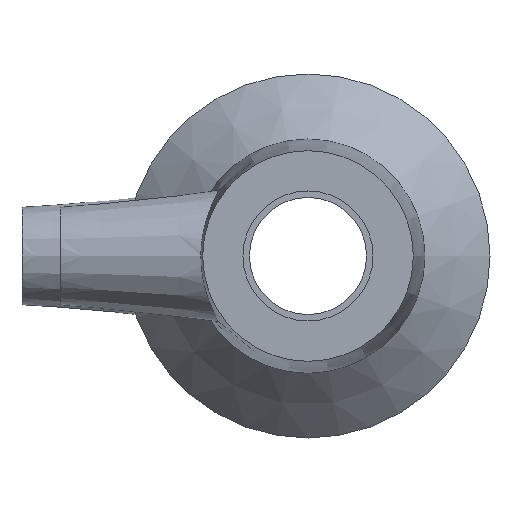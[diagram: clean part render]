
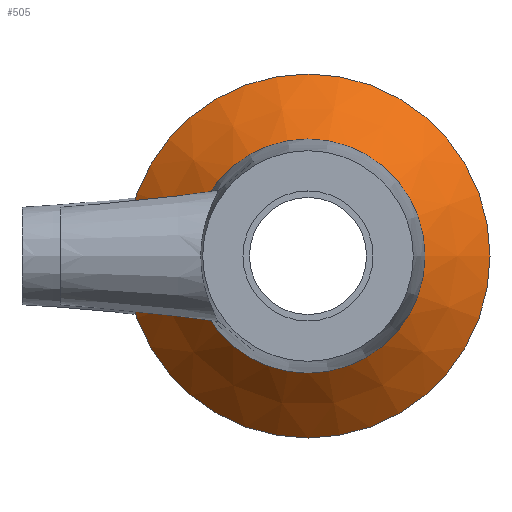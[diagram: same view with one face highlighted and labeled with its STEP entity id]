
A CAD part, left-side view. The second image highlights one B-rep face of the part: STEP entity #505.
In plain terms, the highlighted conical face has half-angle 45 degrees and reference radius 23 mm.
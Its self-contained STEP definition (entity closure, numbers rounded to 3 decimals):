
#21=CONICAL_SURFACE('',#571,23.,0.785);
#46=LINE('',#940,#65);
#65=VECTOR('',#694,23.);
#101=FACE_OUTER_BOUND('',#136,.T.);
#136=EDGE_LOOP('',(#380,#381,#382,#383,#384,#385));
#173=CIRCLE('',#567,18.);
#174=CIRCLE('',#568,18.);
#177=CIRCLE('',#572,28.);
#178=CIRCLE('',#573,28.);
#226=VERTEX_POINT('',#926);
#227=VERTEX_POINT('',#927);
#230=VERTEX_POINT('',#936);
#231=VERTEX_POINT('',#937);
#285=EDGE_CURVE('',#226,#227,#173,.T.);
#286=EDGE_CURVE('',#227,#226,#174,.T.);
#290=EDGE_CURVE('',#230,#231,#177,.T.);
#291=EDGE_CURVE('',#231,#230,#178,.T.);
#292=EDGE_CURVE('',#231,#227,#46,.T.);
#380=ORIENTED_EDGE('',*,*,#290,.F.);
#381=ORIENTED_EDGE('',*,*,#291,.F.);
#382=ORIENTED_EDGE('',*,*,#292,.T.);
#383=ORIENTED_EDGE('',*,*,#286,.T.);
#384=ORIENTED_EDGE('',*,*,#285,.T.);
#385=ORIENTED_EDGE('',*,*,#292,.F.);
#505=ADVANCED_FACE('',(#101),#21,.T.);
#567=AXIS2_PLACEMENT_3D('',#928,#679,#680);
#568=AXIS2_PLACEMENT_3D('',#929,#681,#682);
#571=AXIS2_PLACEMENT_3D('',#935,#688,#689);
#572=AXIS2_PLACEMENT_3D('',#938,#690,#691);
#573=AXIS2_PLACEMENT_3D('',#939,#692,#693);
#679=DIRECTION('center_axis',(1.,0.,0.));
#680=DIRECTION('ref_axis',(0.,0.,-1.));
#681=DIRECTION('center_axis',(1.,0.,0.));
#682=DIRECTION('ref_axis',(0.,0.,-1.));
#688=DIRECTION('center_axis',(1.,0.,0.));
#689=DIRECTION('ref_axis',(0.,1.,0.));
#690=DIRECTION('center_axis',(1.,0.,0.));
#691=DIRECTION('ref_axis',(0.,0.,-1.));
#692=DIRECTION('center_axis',(1.,0.,0.));
#693=DIRECTION('ref_axis',(0.,0.,-1.));
#694=DIRECTION('',(-0.707,0.707,0.));
#926=CARTESIAN_POINT('',(-9.,18.,0.));
#927=CARTESIAN_POINT('',(-9.,-18.,0.));
#928=CARTESIAN_POINT('Origin',(-9.,0.,0.));
#929=CARTESIAN_POINT('Origin',(-9.,0.,0.));
#935=CARTESIAN_POINT('Origin',(-4.,0.,0.));
#936=CARTESIAN_POINT('',(1.,28.,0.));
#937=CARTESIAN_POINT('',(1.,-28.,0.));
#938=CARTESIAN_POINT('Origin',(1.,0.,0.));
#939=CARTESIAN_POINT('Origin',(1.,0.,0.));
#940=CARTESIAN_POINT('',(-4.,-23.,0.));
